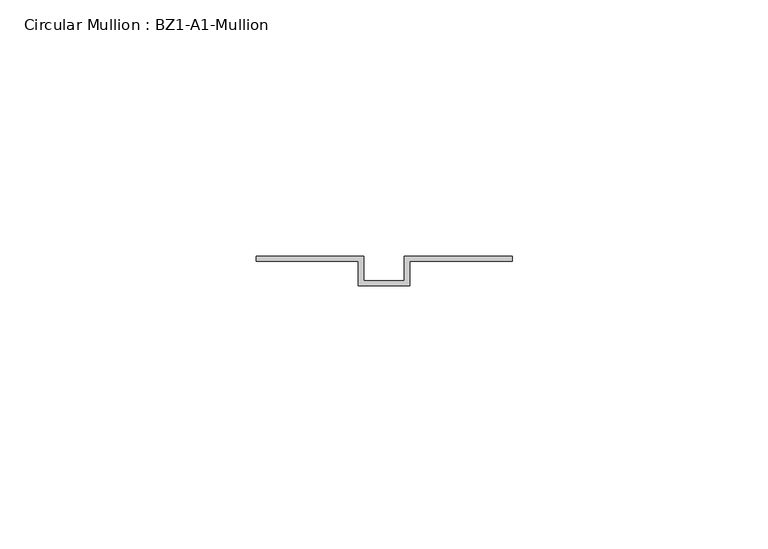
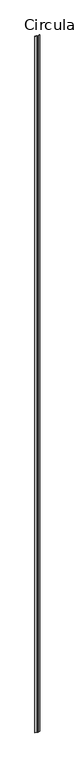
"""IFC4 building model written with IfcOpenShell, lengths in millimetres: member geometry, Circular Mullion : BZ1-A1-Mullion."""

from ifc_helpers import new_model, si_unit, frame, origin, place, context, project, spatial, polyline, outline, extrude, source, transform, mapped, element, save


def circular_mullion_bz1_a1_mullion_8e7961bc(model_context):
    return source(origin(), model_context, "Body", "SweptSolid", [
        extrude(outline(polyline([(-25.0, 11.0), (-4.0, 11.0), (-4.0, 6.2), (4.0, 6.2), (4.0, 11.0), (25.0, 11.0), (25.0, 10.0), (5.0, 10.0), (5.0, 5.2), (-5.0, 5.2), (-5.0, 10.0), (-25.0, 10.0), (-25.0, 11.0)])), frame((0.0, 0.0, -7899.563298), z_axis=(0.0, 0.0, 1.0), x_axis=(1.0, 0.0, 0.0)), (0.0, 0.0, 1.0), 7899.563298),
    ])


if __name__ == "__main__":
    model = new_model("IFC4")
    model_context = context("Model", 3, world=origin())
    ifc_project = project(units=[si_unit("LENGTHUNIT", "METRE", prefix="MILLI")], contexts=[model_context])
    site = spatial("IfcSite", under=ifc_project)
    building = spatial("IfcBuilding", under=site)
    placement = place(None, origin())
    circular_mullion_bz1_a1_mullion_shape = circular_mullion_bz1_a1_mullion_8e7961bc(model_context)
    element("IfcMember", 1, ObjectType="Circular Mullion : BZ1-A1-Mullion", at=placement, inside=building, context=model_context, shape_type="MappedRepresentation", body=[
        mapped(circular_mullion_bz1_a1_mullion_shape, transform((0.0, 0.0, 0.0), x_axis=(1.0, 0.0, 0.0), y_axis=(0.0, 1.0, 0.0), z_axis=(0.0, 0.0, 1.0))),
    ])
    save(model, "model.ifc")
